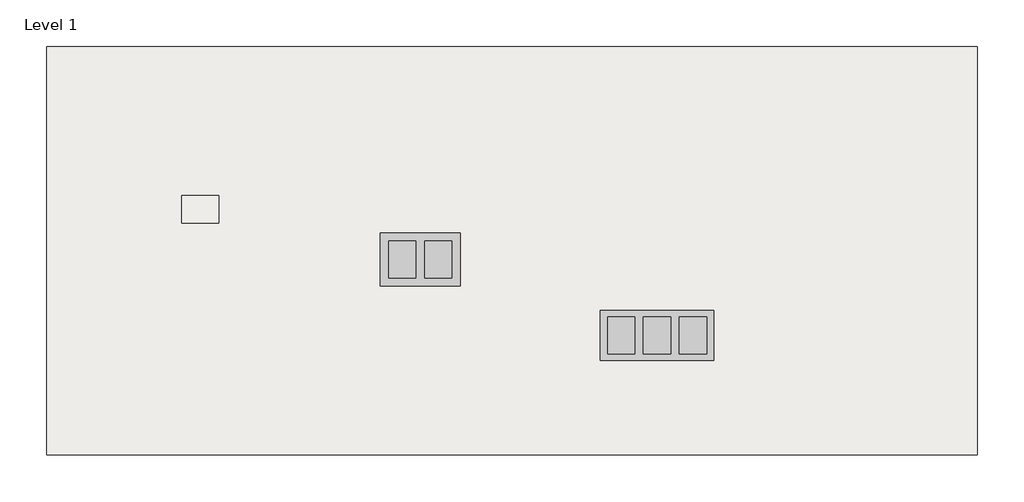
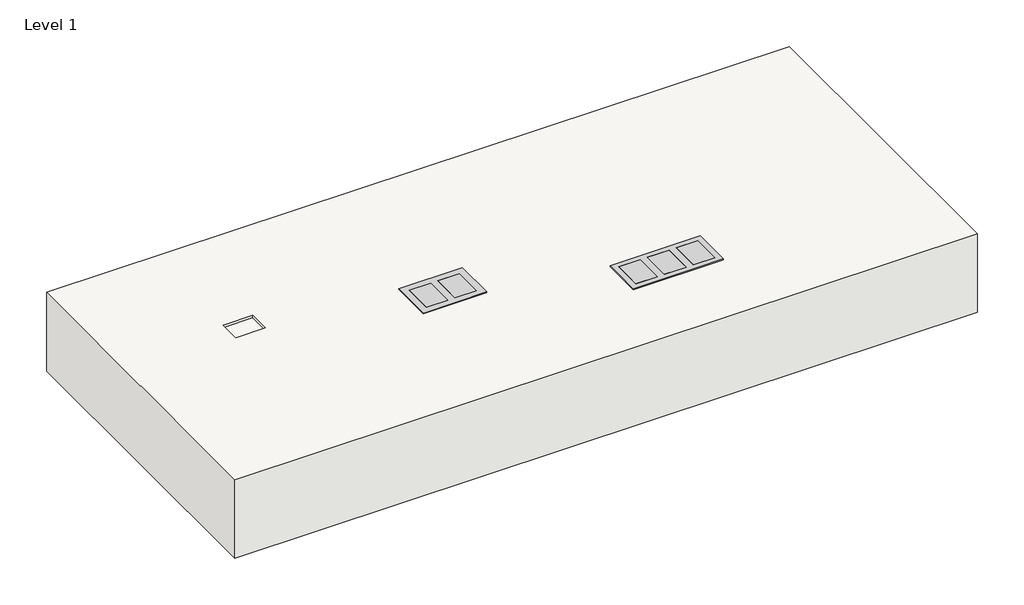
# One storey: 2 proxies, 1 slab.
"""IFC4 building model written with IfcOpenShell, lengths in millimetres."""

from ifc_helpers import new_model, si_unit, origin, place, context, project, spatial, faceted_brep, transform, mapped, element, save
from components import standard_f115a3e9, standard_0954b91d

model = new_model("IFC4")

# Units and contexts
model_context = context("Model", 3, world=origin())
ifc_project = project(units=[si_unit("LENGTHUNIT", "METRE", prefix="MILLI")], contexts=[model_context])

# Site, building, storey
site = spatial("IfcSite", under=ifc_project)
building = spatial("IfcBuilding", under=site)
storey = spatial("IfcBuildingStorey", under=building, Name="Level 1", Elevation=0.0)

# Proxies
placement = place(None, origin())
standard_shape = standard_f115a3e9(model_context)
element("IfcBuildingElementProxy", 1, Name="Floor_Box-OmniBox_Series-Wiremold-880_Steel-2_Gang-Fire_Classified : Standard", ObjectType="Floor_Box-OmniBox_Series-Wiremold-880_Steel-2_Gang-Fire_Classified : Standard", at=placement, inside=storey, context=model_context, shape_type="MappedRepresentation", body=[
    mapped(standard_shape, transform((2923.9529726, 756.5974183, 0.0), x_axis=(-1.0000000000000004, 0.0, 0.0), y_axis=(0.0, -1.0000000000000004, 0.0), z_axis=(0.0, 0.0, 1.0))),
])
standard_2_shape = standard_0954b91d(model_context)
element("IfcBuildingElementProxy", 2, Name="Floor_Box-OmniBox_Series-Wiremold-880_Steel-3_Gang-Fire_Classified : Standard", ObjectType="Floor_Box-OmniBox_Series-Wiremold-880_Steel-3_Gang-Fire_Classified : Standard", at=placement, inside=storey, context=model_context, shape_type="MappedRepresentation", body=[
    mapped(standard_2_shape, transform((3615.5208256, 534.487576, 0.0), x_axis=(-1.0000000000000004, 0.0, 0.0), y_axis=(0.0, -1.0000000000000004, 0.0), z_axis=(0.0, 0.0, 1.0))),
])

# Slab
element("IfcSlab", 3, ObjectType="Generic - 12\"", at=placement, inside=storey, context=model_context, shape_type="Brep", body=[
    faceted_brep([(4550.9973575, 1378.9766815, -304.8), (4550.9973575, 185.1766815, -304.8), (1833.1973575, 185.1766815, -304.8), (1833.1973575, 1378.9766815, -304.8), (4550.9973575, 185.1766815, 0.0), (4550.9973575, 1378.9766815, 0.0), (1833.1973575, 1378.9766815, 0.0), (1833.1973575, 185.1766815, 0.0), (2227.5002696, 863.5967745, 0.0), (2227.5002696, 942.9717745, 0.0), (2335.4502696, 942.9717745, 0.0), (2335.4502696, 863.5967745, 0.0), (2911.2402726, 702.6224183, 0.0), (2831.8652726, 702.6224183, 0.0), (2831.8652726, 810.5724183, 0.0), (2911.2402726, 810.5724183, 0.0), (2831.8652726, 702.6224183, -9.525), (2911.2402726, 702.6224183, -9.525), (2911.2402726, 810.5724183, -9.525), (2831.8652726, 810.5724183, -9.525), (2227.5002696, 942.9717745, -9.525), (2227.5002696, 863.5967745, -9.525), (2335.4502696, 863.5967745, -9.525), (2335.4502696, 942.9717745, -9.525)], [[[0, 1, 2, 3]], [[4, 5, 6, 7], [8, 9, 10, 11], [12, 13, 14, 15]], [[1, 0, 5, 4]], [[2, 1, 4, 7]], [[3, 2, 7, 6]], [[0, 3, 6, 5]], [[16, 17, 18, 19]], [[17, 16, 13, 12]], [[18, 17, 12, 15]], [[19, 18, 15, 14]], [[16, 19, 14, 13]], [[20, 21, 22, 23]], [[21, 20, 9, 8]], [[22, 21, 8, 11]], [[23, 22, 11, 10]], [[20, 23, 10, 9]]]),
])

save(model, "model.ifc")
